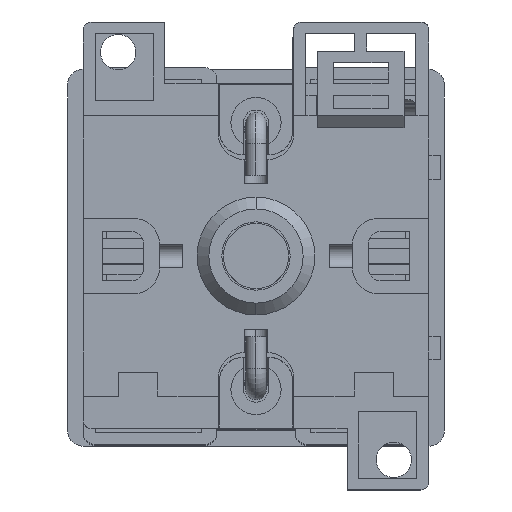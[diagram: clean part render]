
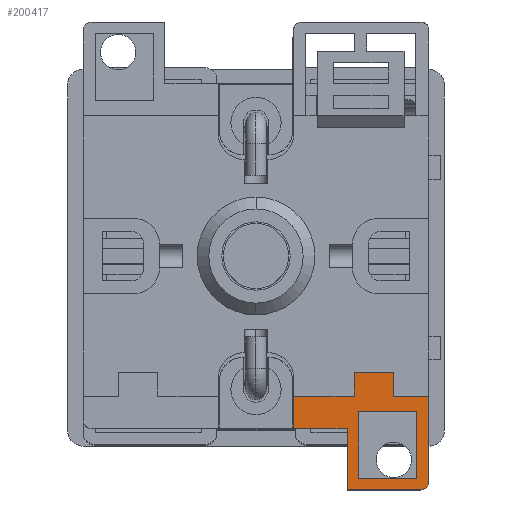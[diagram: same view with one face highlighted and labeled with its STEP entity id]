
A CAD part, top view. The second image highlights one B-rep face of the part: STEP entity #200417.
In plain terms, the highlighted planar face has unit normal (0, 0, 1).
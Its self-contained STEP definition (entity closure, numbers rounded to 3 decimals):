
#2958 = EDGE_CURVE ( 'NONE', #133735, #87020, #118814, .T. ) ;
#3667 = ORIENTED_EDGE ( 'NONE', *, *, #8085, .F. ) ;
#8085 = EDGE_CURVE ( 'NONE', #209181, #133735, #261948, .T. ) ;
#12741 = VECTOR ( 'NONE', #231911, 1000. ) ;
#20916 = ORIENTED_EDGE ( 'NONE', *, *, #104782, .T. ) ;
#24723 = VECTOR ( 'NONE', #238461, 1000. ) ;
#25914 = DIRECTION ( 'NONE',  ( 0., -1., 0. ) ) ;
#26556 = LINE ( 'NONE', #43636, #241236 ) ;
#28011 = CARTESIAN_POINT ( 'NONE',  ( 6.361, -5.111, -144.082 ) ) ;
#38013 = CARTESIAN_POINT ( 'NONE',  ( 27.361, -33.911, -144.082 ) ) ;
#40291 = DIRECTION ( 'NONE',  ( -1., 0., 0. ) ) ;
#43636 = CARTESIAN_POINT ( 'NONE',  ( 17.961, -27.111, -144.082 ) ) ;
#43962 = DIRECTION ( 'NONE',  ( 0., -1., 0. ) ) ;
#44246 = EDGE_CURVE ( 'NONE', #87020, #145632, #265972, .T. ) ;
#44721 = VERTEX_POINT ( 'NONE', #108871 ) ;
#44953 = CARTESIAN_POINT ( 'NONE',  ( 18.861, -19.961, -144.082 ) ) ;
#47902 = CARTESIAN_POINT ( 'NONE',  ( 28.361, -33.911, -144.082 ) ) ;
#48408 = VECTOR ( 'NONE', #40291, 1000. ) ;
#63461 = CARTESIAN_POINT ( 'NONE',  ( 26.861, -33.411, -144.082 ) ) ;
#66127 = FACE_OUTER_BOUND ( 'NONE', #269353, .T. ) ;
#70921 = CARTESIAN_POINT ( 'NONE',  ( 18.861, -19.961, -144.082 ) ) ;
#71043 = LINE ( 'NONE', #63461, #195757 ) ;
#71946 = EDGE_LOOP ( 'NONE', ( #226024, #170588, #176991, #78852 ) ) ;
#77785 = CARTESIAN_POINT ( 'NONE',  ( 28.361, -34.911, -144.082 ) ) ;
#78852 = ORIENTED_EDGE ( 'NONE', *, *, #189592, .F. ) ;
#80233 = LINE ( 'NONE', #190962, #24723 ) ;
#81926 = CARTESIAN_POINT ( 'NONE',  ( 26.861, -33.411, -144.082 ) ) ;
#84715 = LINE ( 'NONE', #202145, #219854 ) ;
#85114 = EDGE_CURVE ( 'NONE', #44721, #197521, #200792, .T. ) ;
#87020 = VERTEX_POINT ( 'NONE', #246231 ) ;
#89187 = VECTOR ( 'NONE', #163848, 1000. ) ;
#92510 = ORIENTED_EDGE ( 'NONE', *, *, #171734, .F. ) ;
#102791 = VECTOR ( 'NONE', #259072, 1000. ) ;
#104782 = EDGE_CURVE ( 'NONE', #122111, #135190, #112799, .T. ) ;
#107256 = VERTEX_POINT ( 'NONE', #243179 ) ;
#108871 = CARTESIAN_POINT ( 'NONE',  ( 17.961, -27.111, -144.082 ) ) ;
#109190 = ORIENTED_EDGE ( 'NONE', *, *, #219240, .F. ) ;
#112799 = CIRCLE ( 'NONE', #211280, 1. ) ;
#116899 = DIRECTION ( 'NONE',  ( 1., 0., 0. ) ) ;
#118814 = LINE ( 'NONE', #198229, #156814 ) ;
#122111 = VERTEX_POINT ( 'NONE', #285504 ) ;
#124509 = ORIENTED_EDGE ( 'NONE', *, *, #140544, .F. ) ;
#127156 = CARTESIAN_POINT ( 'NONE',  ( 26.861, -24.961, -144.082 ) ) ;
#133735 = VERTEX_POINT ( 'NONE', #197467 ) ;
#135190 = VERTEX_POINT ( 'NONE', #47902 ) ;
#136633 = EDGE_CURVE ( 'NONE', #251590, #216503, #71043, .T. ) ;
#138201 = PLANE ( 'NONE',  #261328 ) ;
#139390 = CARTESIAN_POINT ( 'NONE',  ( 17.961, -34.911, -144.082 ) ) ;
#140544 = EDGE_CURVE ( 'NONE', #259664, #44721, #26556, .T. ) ;
#141496 = EDGE_CURVE ( 'NONE', #264683, #197521, #80233, .T. ) ;
#142250 = CARTESIAN_POINT ( 'NONE',  ( 26.861, -33.411, -144.082 ) ) ;
#142650 = EDGE_CURVE ( 'NONE', #264683, #107256, #161527, .T. ) ;
#145632 = VERTEX_POINT ( 'NONE', #191214 ) ;
#154286 = ORIENTED_EDGE ( 'NONE', *, *, #232479, .T. ) ;
#156814 = VECTOR ( 'NONE', #25914, 1000. ) ;
#160818 = ORIENTED_EDGE ( 'NONE', *, *, #44246, .F. ) ;
#161152 = CARTESIAN_POINT ( 'NONE',  ( 19.461, -24.961, -144.082 ) ) ;
#161527 = LINE ( 'NONE', #234076, #262170 ) ;
#162595 = VERTEX_POINT ( 'NONE', #161152 ) ;
#163848 = DIRECTION ( 'NONE',  ( -1., 0., 0. ) ) ;
#168039 = DIRECTION ( 'NONE',  ( 1., 0., 0. ) ) ;
#168889 = LINE ( 'NONE', #44953, #262579 ) ;
#169030 = DIRECTION ( 'NONE',  ( 1., 0., 0. ) ) ;
#170588 = ORIENTED_EDGE ( 'NONE', *, *, #218169, .F. ) ;
#171734 = EDGE_CURVE ( 'NONE', #145632, #135190, #213658, .T. ) ;
#173258 = CARTESIAN_POINT ( 'NONE',  ( 19.461, -33.411, -144.082 ) ) ;
#175499 = DIRECTION ( 'NONE',  ( 1., 0., 0. ) ) ;
#176935 = DIRECTION ( 'NONE',  ( 0., 1., 0. ) ) ;
#176991 = ORIENTED_EDGE ( 'NONE', *, *, #136633, .F. ) ;
#184681 = CARTESIAN_POINT ( 'NONE',  ( -51.715, -22.961, -144.082 ) ) ;
#187265 = CARTESIAN_POINT ( 'NONE',  ( 28.361, -34.911, -144.082 ) ) ;
#188677 = ORIENTED_EDGE ( 'NONE', *, *, #2958, .F. ) ;
#189592 = EDGE_CURVE ( 'NONE', #162595, #251590, #84715, .T. ) ;
#190962 = CARTESIAN_POINT ( 'NONE',  ( 11.161, 24.689, -144.082 ) ) ;
#191214 = CARTESIAN_POINT ( 'NONE',  ( 28.361, -22.961, -144.082 ) ) ;
#192630 = EDGE_CURVE ( 'NONE', #240719, #162595, #262926, .T. ) ;
#193234 = VECTOR ( 'NONE', #169030, 1000. ) ;
#195757 = VECTOR ( 'NONE', #175499, 1000. ) ;
#197467 = CARTESIAN_POINT ( 'NONE',  ( 23.861, -19.961, -144.082 ) ) ;
#197521 = VERTEX_POINT ( 'NONE', #227993 ) ;
#198229 = CARTESIAN_POINT ( 'NONE',  ( 23.861, -19.961, -144.082 ) ) ;
#200417 = ADVANCED_FACE ( 'NONE', ( #228938, #66127 ), #138201, .F. ) ;
#200757 = CARTESIAN_POINT ( 'NONE',  ( -15.639, -27.111, -144.082 ) ) ;
#200792 = LINE ( 'NONE', #200757, #269876 ) ;
#202145 = CARTESIAN_POINT ( 'NONE',  ( 19.461, -33.411, -144.082 ) ) ;
#202323 = CARTESIAN_POINT ( 'NONE',  ( 11.161, -22.961, -144.082 ) ) ;
#207038 = LINE ( 'NONE', #77785, #89187 ) ;
#209181 = VERTEX_POINT ( 'NONE', #70921 ) ;
#210163 = DIRECTION ( 'NONE',  ( 1., 0., 0. ) ) ;
#211280 = AXIS2_PLACEMENT_3D ( 'NONE', #38013, #236344, #210163 ) ;
#213658 = LINE ( 'NONE', #187265, #12741 ) ;
#216007 = CARTESIAN_POINT ( 'NONE',  ( 26.861, -24.961, -144.082 ) ) ;
#216503 = VERTEX_POINT ( 'NONE', #81926 ) ;
#218169 = EDGE_CURVE ( 'NONE', #216503, #240719, #235506, .T. ) ;
#218452 = CARTESIAN_POINT ( 'NONE',  ( 23.861, -19.961, -144.082 ) ) ;
#219240 = EDGE_CURVE ( 'NONE', #122111, #259664, #207038, .T. ) ;
#219854 = VECTOR ( 'NONE', #268814, 1000. ) ;
#226024 = ORIENTED_EDGE ( 'NONE', *, *, #192630, .F. ) ;
#227993 = CARTESIAN_POINT ( 'NONE',  ( 11.161, -27.111, -144.082 ) ) ;
#228938 = FACE_BOUND ( 'NONE', #71946, .T. ) ;
#231911 = DIRECTION ( 'NONE',  ( 0., -1., 0. ) ) ;
#232479 = EDGE_CURVE ( 'NONE', #209181, #107256, #168889, .T. ) ;
#234076 = CARTESIAN_POINT ( 'NONE',  ( -51.715, -22.961, -144.082 ) ) ;
#235506 = LINE ( 'NONE', #142250, #259607 ) ;
#236133 = DIRECTION ( 'NONE',  ( 0., 1., 0. ) ) ;
#236344 = DIRECTION ( 'NONE',  ( 0., 0., 1. ) ) ;
#238461 = DIRECTION ( 'NONE',  ( 0., -1., 0. ) ) ;
#240719 = VERTEX_POINT ( 'NONE', #216007 ) ;
#241236 = VECTOR ( 'NONE', #176935, 1000. ) ;
#243179 = CARTESIAN_POINT ( 'NONE',  ( 18.861, -22.961, -144.082 ) ) ;
#245345 = DIRECTION ( 'NONE',  ( -1., 0., 0. ) ) ;
#246231 = CARTESIAN_POINT ( 'NONE',  ( 23.861, -22.961, -144.082 ) ) ;
#251525 = DIRECTION ( 'NONE',  ( 0., 0., -1. ) ) ;
#251590 = VERTEX_POINT ( 'NONE', #173258 ) ;
#257977 = ORIENTED_EDGE ( 'NONE', *, *, #85114, .F. ) ;
#259072 = DIRECTION ( 'NONE',  ( 1., 0., 0. ) ) ;
#259607 = VECTOR ( 'NONE', #236133, 1000. ) ;
#259664 = VERTEX_POINT ( 'NONE', #139390 ) ;
#260013 = ORIENTED_EDGE ( 'NONE', *, *, #142650, .F. ) ;
#261328 = AXIS2_PLACEMENT_3D ( 'NONE', #28011, #251525, #116899 ) ;
#261948 = LINE ( 'NONE', #218452, #102791 ) ;
#262170 = VECTOR ( 'NONE', #168039, 1000. ) ;
#262579 = VECTOR ( 'NONE', #43962, 1000. ) ;
#262926 = LINE ( 'NONE', #127156, #48408 ) ;
#264683 = VERTEX_POINT ( 'NONE', #202323 ) ;
#265972 = LINE ( 'NONE', #184681, #193234 ) ;
#268814 = DIRECTION ( 'NONE',  ( 0., -1., 0. ) ) ;
#269353 = EDGE_LOOP ( 'NONE', ( #109190, #20916, #92510, #160818, #188677, #3667, #154286, #260013, #286883, #257977, #124509 ) ) ;
#269876 = VECTOR ( 'NONE', #245345, 1000. ) ;
#285504 = CARTESIAN_POINT ( 'NONE',  ( 27.361, -34.911, -144.082 ) ) ;
#286883 = ORIENTED_EDGE ( 'NONE', *, *, #141496, .T. ) ;
